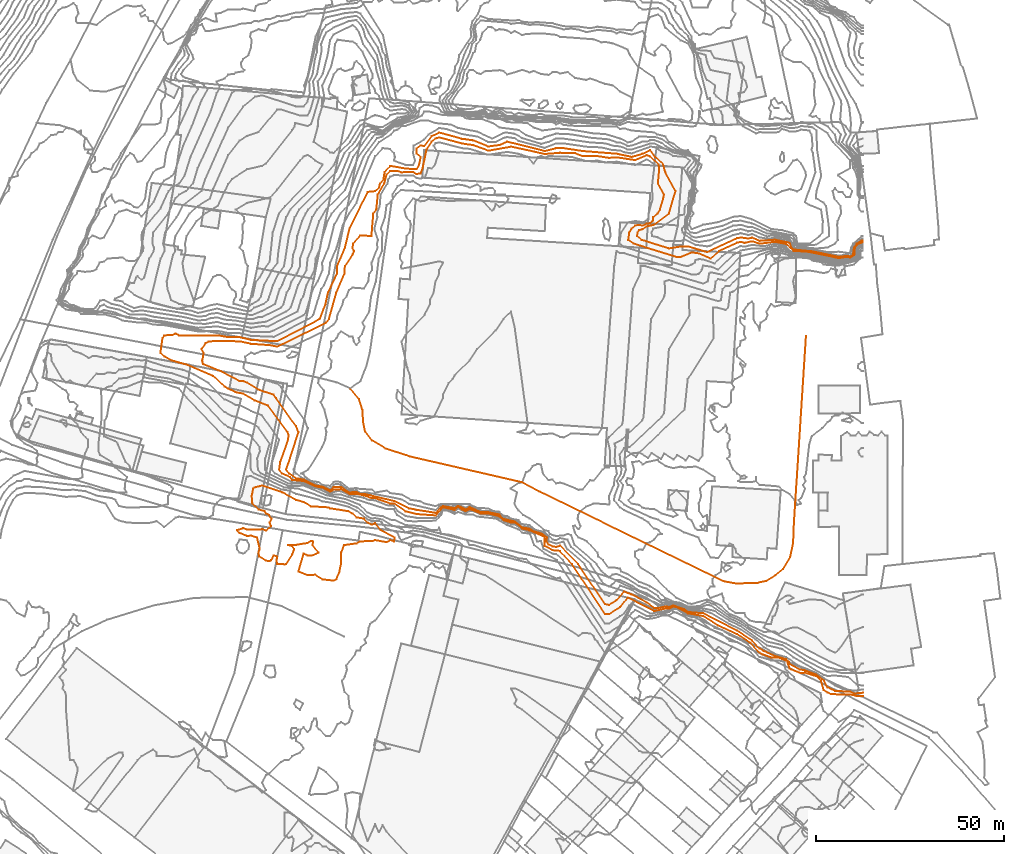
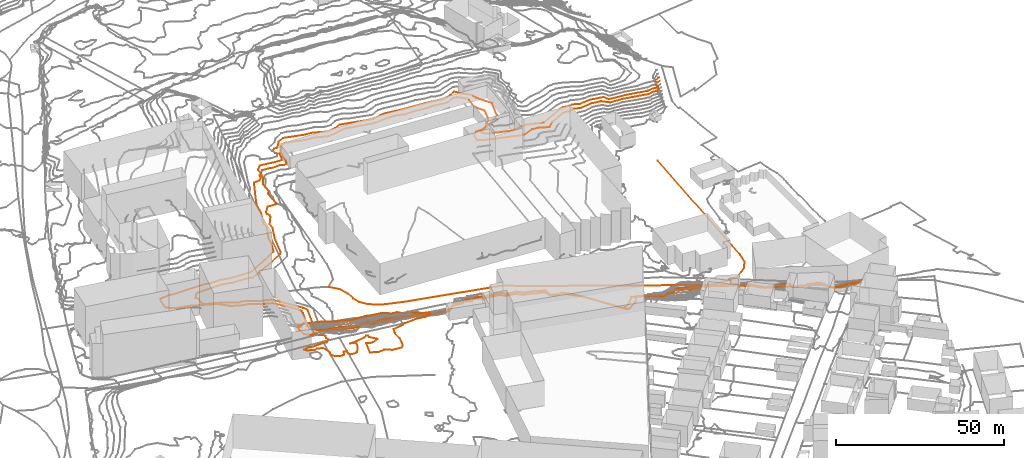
# Not in any storey, part 264 of 419: 4 proxies.
"""IFC2X3 model written with IfcOpenShell, lengths in metres."""

from ifc_helpers import new_model, entity, si_unit, frame, origin_with_axes, place, context, subcontext, project, element, save


model = new_model("IFC2X3")

# Units and contexts
model_context = context("Model", 3, precision=1e-05, world=origin_with_axes())
body_context = subcontext(model_context, "Body", "Model", "MODEL_VIEW")
ifc_project = project(units=[si_unit("AREAUNIT", "SQUARE_METRE"), si_unit("LENGTHUNIT", "METRE")], contexts=[model_context])

# Proxies
proxy_1_placement = place(None, frame((840.3920204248, 392.4976909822, 71.5), z_axis=(0.0, 0.0, 1.0), x_axis=(1.0, 0.0, 0.0)))
element("IfcBuildingElementProxy", 1, at=proxy_1_placement, Name="Route 196", ObjectType="NOTDEFINED", context=body_context, shape_type="GeometricCurveSet", body=[
    entity("IfcGeometricCurveSet", [entity("IfcPolyline", [entity("IfcCartesianPoint", [0.0, 0.0, 0.0]), entity("IfcCartesianPoint", [2.3999999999, -2.7999999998, 0.0]), entity("IfcCartesianPoint", [3.2999999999, -5.7999999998, 0.0]), entity("IfcCartesianPoint", [3.5, -8.8999999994, 0.0]), entity("IfcCartesianPoint", [4.0, -11.3999999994, 0.0]), entity("IfcCartesianPoint", [5.8999999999, -13.7999999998, 0.0]), entity("IfcCartesianPoint", [9.5, -16.0, 0.0]), entity("IfcCartesianPoint", [16.0, -18.0999999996, 0.0]), entity("IfcCartesianPoint", [45.5, -24.8999999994, -0.3]), entity("IfcCartesianPoint", [50.2999999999, -27.3999999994, -0.7]), entity("IfcCartesianPoint", [99.1, -51.1999999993, -3.0]), entity("IfcCartesianPoint", [102.3999999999, -51.7999999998, -3.5]), entity("IfcCartesianPoint", [105.3999999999, -51.6999999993, -3.7]), entity("IfcCartesianPoint", [108.1, -51.5999999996, -3.9]), entity("IfcCartesianPoint", [110.3999999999, -51.0999999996, -4.1]), entity("IfcCartesianPoint", [113.0, -49.5, -4.1]), entity("IfcCartesianPoint", [114.8999999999, -47.8999999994, -4.2]), entity("IfcCartesianPoint", [116.7999999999, -44.7999999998, -4.6]), entity("IfcCartesianPoint", [117.6, -40.8999999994, -4.6]), entity("IfcCartesianPoint", [117.7999999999, -35.7999999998, -4.6]), entity("IfcCartesianPoint", [121.0, 13.9000000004, -5.0])])]),
])
proxy_2_placement = place(None, frame((810.4253113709, 354.8976909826, 82.0), z_axis=(0.0, 0.0, 1.0), x_axis=(1.0, 0.0, 0.0)))
element("IfcBuildingElementProxy", 2, at=proxy_2_placement, Name="Contour 82.0 m", ObjectType="NOTDEFINED", context=body_context, shape_type="GeometricCurveSet", body=[
    entity("IfcGeometricCurveSet", [entity("IfcPolyline", [entity("IfcCartesianPoint", [26.3541971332, -13.0, 0.0]), entity("IfcCartesianPoint", [25.6667090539, -13.4230757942, 0.0]), entity("IfcCartesianPoint", [22.6667090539, -13.1199951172, 0.0]), entity("IfcCartesianPoint", [20.6667090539, -11.8571117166, 0.0]), entity("IfcCartesianPoint", [18.6667090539, -12.0000066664, 0.0]), entity("IfcCartesianPoint", [16.2666937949, -11.0, 0.0]), entity("IfcCartesianPoint", [17.6667090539, -6.2500476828, 0.0]), entity("IfcCartesianPoint", [18.6667090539, -6.7499523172, 0.0]), entity("IfcCartesianPoint", [19.6667090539, -6.8333121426, 0.0]), entity("IfcCartesianPoint", [21.6666090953, -6.0, 0.0]), entity("IfcCartesianPoint", [20.066724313, -4.0, 0.0]), entity("IfcCartesianPoint", [20.1666590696, -3.0, 0.0]), entity("IfcCartesianPoint", [19.6667090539, -2.9090719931, 0.0]), entity("IfcCartesianPoint", [18.6667090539, -3.4375089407, 0.0]), entity("IfcCartesianPoint", [15.6667090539, -3.9200134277, 0.0]), entity("IfcCartesianPoint", [13.5416852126, -4.0, 0.0]), entity("IfcCartesianPoint", [14.6667090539, -4.2500476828, 0.0]), entity("IfcCartesianPoint", [15.1667257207, -5.0, 0.0]), entity("IfcCartesianPoint", [14.6667090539, -6.5000499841, 0.0]), entity("IfcCartesianPoint", [13.0001271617, -9.0, 0.0]), entity("IfcCartesianPoint", [12.6667090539, -9.1000228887, 0.0]), entity("IfcCartesianPoint", [10.6666840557, -9.0, 0.0]), entity("IfcCartesianPoint", [10.4666785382, -8.0, 0.0]), entity("IfcCartesianPoint", [10.6666590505, -7.0, 0.0]), entity("IfcCartesianPoint", [9.6667090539, -6.7778060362, 0.0]), entity("IfcCartesianPoint", [9.0952649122, -8.0, 0.0]), entity("IfcCartesianPoint", [8.6667090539, -8.25, 0.0]), entity("IfcCartesianPoint", [7.6667090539, -8.142833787, 0.0]), entity("IfcCartesianPoint", [5.9167567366, -7.0, 0.0]), entity("IfcCartesianPoint", [5.6666947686, -6.0, 0.0]), entity("IfcCartesianPoint", [6.0416852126, -5.0, 0.0]), entity("IfcCartesianPoint", [5.3332909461, -2.0, 0.0]), entity("IfcCartesianPoint", [3.6667090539, -1.5000083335, 0.0]), entity("IfcCartesianPoint", [2.6667090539, -1.5714441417, 0.0]), entity("IfcCartesianPoint", [0.6667090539, -0.7999694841, 0.0]), entity("IfcCartesianPoint", [0.0, 0.0, 0.0]), entity("IfcCartesianPoint", [1.6667090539, 0.5000041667, 0.0]), entity("IfcCartesianPoint", [2.6667090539, 0.1153789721, 0.0]), entity("IfcCartesianPoint", [6.6667090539, 0.1999694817, 0.0]), entity("IfcCartesianPoint", [7.6667090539, -0.1428882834, 0.0]), entity("IfcCartesianPoint", [9.0416852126, 1.0, 0.0]), entity("IfcCartesianPoint", [8.6666965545, 2.0, 0.0]), entity("IfcCartesianPoint", [9.1666840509, 3.0, 0.0]), entity("IfcCartesianPoint", [8.5000211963, 4.0, 0.0]), entity("IfcCartesianPoint", [7.6667090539, 4.4166825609, 0.0]), entity("IfcCartesianPoint", [7.3167052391, 5.0, 0.0]), entity("IfcCartesianPoint", [5.6667090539, 5.4999977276, 0.0]), entity("IfcCartesianPoint", [4.0614448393, 7.0, 0.0]), entity("IfcCartesianPoint", [3.8974692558, 9.0, 0.0]), entity("IfcCartesianPoint", [4.2820891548, 11.0, 0.0]), entity("IfcCartesianPoint", [4.6667090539, 11.333333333, 0.0]), entity("IfcCartesianPoint", [6.6667090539, 11.8000050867, 0.0]), entity("IfcCartesianPoint", [12.0381313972, 10.0, 0.0]), entity("IfcCartesianPoint", [15.6667090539, 7.9642779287, 0.0]), entity("IfcCartesianPoint", [17.6667090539, 7.4255312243, 0.0]), entity("IfcCartesianPoint", [19.6667090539, 6.2758675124, 0.0]), entity("IfcCartesianPoint", [24.3333757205, 6.0, 0.0]), entity("IfcCartesianPoint", [24.6667090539, 5.75, 0.0]), entity("IfcCartesianPoint", [29.4314070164, 5.0, 0.0]), entity("IfcCartesianPoint", [30.6667090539, 4.3448212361, 0.0]), entity("IfcCartesianPoint", [31.6667090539, 3.3538504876, 0.0]), entity("IfcCartesianPoint", [33.6667090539, 3.0185178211, 0.0]), entity("IfcCartesianPoint", [34.5952921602, 2.0, 0.0]), entity("IfcCartesianPoint", [35.6667090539, 1.4027783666, 0.0]), entity("IfcCartesianPoint", [36.6667090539, 1.8139493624, 0.0]), entity("IfcCartesianPoint", [38.1333689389, 0.0, 0.0]), entity("IfcCartesianPoint", [41.7901643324, -2.0, 0.0]), entity("IfcCartesianPoint", [41.6667090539, -3.0677977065, 0.0]), entity("IfcCartesianPoint", [40.6667090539, -2.638302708, 0.0]), entity("IfcCartesianPoint", [39.6667090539, -3.2187492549, 0.0]), entity("IfcCartesianPoint", [36.6667090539, -2.6875044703, 0.0]), entity("IfcCartesianPoint", [35.6667090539, -2.958325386, 0.0]), entity("IfcCartesianPoint", [32.6667090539, -3.0000050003, 0.0]), entity("IfcCartesianPoint", [31.6667090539, -3.5238147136, 0.0]), entity("IfcCartesianPoint", [28.3810414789, -4.0, 0.0]), entity("IfcCartesianPoint", [27.6667090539, -6.0000500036, 0.0]), entity("IfcCartesianPoint", [27.5757810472, -9.0, 0.0]), entity("IfcCartesianPoint", [27.1667190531, -11.0, 0.0]), entity("IfcCartesianPoint", [26.3541971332, -13.0, 0.0])])]),
])
proxy_3_placement = place(None, frame((801.0011239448, 402.8976909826, 75.0), z_axis=(0.0, 0.0, 1.0), x_axis=(1.0, 0.0, 0.0)))
element("IfcBuildingElementProxy", 3, at=proxy_3_placement, Name="Contour 75.0 m", ObjectType="NOTDEFINED", context=body_context, shape_type="GeometricCurveSet", body=[
    entity("IfcGeometricCurveSet", [entity("IfcPolyline", [entity("IfcCartesianPoint", [175.59089648, 28.4306573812, 0.0]), entity("IfcCartesianPoint", [174.09089648, 27.8823534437, 0.0]), entity("IfcCartesianPoint", [173.3782261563, 27.0, 0.0]), entity("IfcCartesianPoint", [173.2190300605, 25.0, 0.0]), entity("IfcCartesianPoint", [172.09089648, 24.3349636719, 0.0]), entity("IfcCartesianPoint", [171.09089648, 24.4934721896, 0.0]), entity("IfcCartesianPoint", [169.09089648, 24.1485139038, 0.0]), entity("IfcCartesianPoint", [161.09089648, 25.8063588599, 0.0]), entity("IfcCartesianPoint", [157.09089648, 26.0812732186, 0.0]), entity("IfcCartesianPoint", [155.09089648, 27.8994695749, 0.0]), entity("IfcCartesianPoint", [152.09089648, 28.4812835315, 0.0]), entity("IfcCartesianPoint", [148.09089648, 27.9659843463, 0.0]), entity("IfcCartesianPoint", [146.09089648, 28.609521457, 0.0]), entity("IfcCartesianPoint", [144.09089648, 28.2111134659, 0.0]), entity("IfcCartesianPoint", [143.09089648, 28.4772721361, 0.0]), entity("IfcCartesianPoint", [142.09089648, 28.2345694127, 0.0]), entity("IfcCartesianPoint", [137.2703831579, 26.0, 0.0]), entity("IfcCartesianPoint", [135.09089648, 24.0263210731, 0.0]), entity("IfcCartesianPoint", [132.09089648, 25.3734936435, 0.0]), entity("IfcCartesianPoint", [130.09089648, 25.666666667, 0.0]), entity("IfcCartesianPoint", [127.09089648, 24.4687552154, 0.0]), entity("IfcCartesianPoint", [126.09089648, 24.4528272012, 0.0]), entity("IfcCartesianPoint", [114.59089148, 28.0, 0.0]), entity("IfcCartesianPoint", [113.2447366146, 29.0, 0.0]), entity("IfcCartesianPoint", [113.5039460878, 31.0, 0.0]), entity("IfcCartesianPoint", [114.1136284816, 32.0, 0.0]), entity("IfcCartesianPoint", [115.09089648, 32.8113231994, 0.0]), entity("IfcCartesianPoint", [116.09089648, 32.9670341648, 0.0]), entity("IfcCartesianPoint", [117.09089648, 32.7310932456, 0.0]), entity("IfcCartesianPoint", [118.09089648, 33.325926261, 0.0]), entity("IfcCartesianPoint", [119.09089648, 33.4409441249, 0.0]), entity("IfcCartesianPoint", [119.7483019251, 34.0, 0.0]), entity("IfcCartesianPoint", [119.8580209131, 35.0, 0.0]), entity("IfcCartesianPoint", [121.0302995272, 36.0, 0.0]), entity("IfcCartesianPoint", [121.6314359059, 37.0, 0.0]), entity("IfcCartesianPoint", [122.4856322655, 40.0, 0.0]), entity("IfcCartesianPoint", [122.7337575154, 41.0, 0.0]), entity("IfcCartesianPoint", [121.0908950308, 44.0, 0.0]), entity("IfcCartesianPoint", [121.475512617, 48.0, 0.0]), entity("IfcCartesianPoint", [121.2992268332, 49.0, 0.0]), entity("IfcCartesianPoint", [119.09089648, 51.0851081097, 0.0]), entity("IfcCartesianPoint", [118.09089648, 51.4489805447, 0.0]), entity("IfcCartesianPoint", [115.09089648, 50.1546405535, 0.0]), entity("IfcCartesianPoint", [110.09089648, 50.8686893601, 0.0]), entity("IfcCartesianPoint", [108.09089648, 50.7448988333, 0.0]), entity("IfcCartesianPoint", [105.09089648, 51.2023796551, 0.0]), entity("IfcCartesianPoint", [101.09089648, 51.202896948, 0.0]), entity("IfcCartesianPoint", [99.09089648, 51.9767478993, 0.0]), entity("IfcCartesianPoint", [95.09089648, 52.102566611, 0.0]), entity("IfcCartesianPoint", [91.09089648, 51.7758609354, 0.0]), entity("IfcCartesianPoint", [82.09089648, 53.721517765, 0.0]), entity("IfcCartesianPoint", [76.09089648, 52.6455715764, 0.0]), entity("IfcCartesianPoint", [72.09089648, 54.1315765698, 0.0]), entity("IfcCartesianPoint", [69.09089648, 54.5500009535, 0.0]), entity("IfcCartesianPoint", [63.09089648, 56.1818181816, 0.0]), entity("IfcCartesianPoint", [62.09089648, 55.9204546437, 0.0]), entity("IfcCartesianPoint", [61.09089648, 55.0819721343, 0.0]), entity("IfcCartesianPoint", [59.7045324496, 53.0, 0.0]), entity("IfcCartesianPoint", [58.6976394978, 48.0, 0.0]), entity("IfcCartesianPoint", [58.09089648, 46.6521743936, 0.0]), entity("IfcCartesianPoint", [57.09089648, 46.4545446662, 0.0]), entity("IfcCartesianPoint", [56.09089648, 46.9906522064, 0.0]), entity("IfcCartesianPoint", [53.09089648, 46.9189217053, 0.0]), entity("IfcCartesianPoint", [52.09089648, 47.2758611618, 0.0]), entity("IfcCartesianPoint", [50.09089648, 47.3142854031, 0.0]), entity("IfcCartesianPoint", [49.09089648, 46.3157889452, 0.0]), entity("IfcCartesianPoint", [48.49089648, 44.0, 0.0]), entity("IfcCartesianPoint", [46.767588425, 41.0, 0.0]), entity("IfcCartesianPoint", [46.3739152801, 37.0, 0.0]), entity("IfcCartesianPoint", [45.5766113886, 36.0, 0.0]), entity("IfcCartesianPoint", [45.09089648, 29.9999857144, 0.0]), entity("IfcCartesianPoint", [42.09089648, 30.1817992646, 0.0]), entity("IfcCartesianPoint", [40.257541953, 28.0, 0.0]), entity("IfcCartesianPoint", [40.0531668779, 27.0, 0.0]), entity("IfcCartesianPoint", [40.4308928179, 26.0, 0.0]), entity("IfcCartesianPoint", [40.09089648, 25.0555673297, 0.0]), entity("IfcCartesianPoint", [38.0474254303, 22.0, 0.0]), entity("IfcCartesianPoint", [37.8979128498, 20.0, 0.0]), entity("IfcCartesianPoint", [35.7575631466, 15.0, 0.0]), entity("IfcCartesianPoint", [33.786549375, 8.0, 0.0]), entity("IfcCartesianPoint", [33.0284069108, 7.0, 0.0]), entity("IfcCartesianPoint", [20.09089648, 0.639537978, 0.0]), entity("IfcCartesianPoint", [18.09089648, 1.058143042, 0.0]), entity("IfcCartesianPoint", [13.09089648, 1.4062497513, 0.0]), entity("IfcCartesianPoint", [10.09089648, 2.0760867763, 0.0]), entity("IfcCartesianPoint", [3.09089648, 2.1111064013, 0.0]), entity("IfcCartesianPoint", [1.8908659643, 2.0, 0.0]), entity("IfcCartesianPoint", [1.09089648, 1.5999847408, 0.0]), entity("IfcCartesianPoint", [0.0, 0.0, 0.0]), entity("IfcCartesianPoint", [0.5909089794, -1.0, 0.0]), entity("IfcCartesianPoint", [0.2159203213, -3.0, 0.0]), entity("IfcCartesianPoint", [0.3908888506, -4.0, 0.0]), entity("IfcCartesianPoint", [5.09089648, -5.8409106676, 0.0]), entity("IfcCartesianPoint", [10.09089648, -8.4838677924, 0.0]), entity("IfcCartesianPoint", [11.09089648, -8.4999968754, 0.0]), entity("IfcCartesianPoint", [12.09089648, -8.9130564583, 0.0]), entity("IfcCartesianPoint", [15.09089648, -10.7666700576, 0.0]), entity("IfcCartesianPoint", [19.09089648, -12.0908964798, 0.0]), entity("IfcCartesianPoint", [19.7805570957, -13.0, 0.0]), entity("IfcCartesianPoint", [25.09089648, -20.4545359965, 0.0]), entity("IfcCartesianPoint", [25.7020099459, -22.0, 0.0]), entity("IfcCartesianPoint", [22.4562827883, -32.0, 0.0]), entity("IfcCartesianPoint", [23.2946009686, -33.0, 0.0]), entity("IfcCartesianPoint", [25.09089648, -34.2872349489, 0.0]), entity("IfcCartesianPoint", [27.09089648, -34.6441956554, 0.0]), entity("IfcCartesianPoint", [30.09089648, -36.1378451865, 0.0]), entity("IfcCartesianPoint", [32.09089648, -36.5370370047, 0.0]), entity("IfcCartesianPoint", [34.09089648, -37.4346298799, 0.0]), entity("IfcCartesianPoint", [35.09089648, -36.608393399, 0.0]), entity("IfcCartesianPoint", [37.09089648, -36.6067430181, 0.0]), entity("IfcCartesianPoint", [39.09089648, -38.0409565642, 0.0]), entity("IfcCartesianPoint", [41.09089648, -37.8622233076, 0.0]), entity("IfcCartesianPoint", [42.09089648, -38.4490447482, 0.0]), entity("IfcCartesianPoint", [43.09089648, -38.3992240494, 0.0]), entity("IfcCartesianPoint", [51.09089648, -40.3076934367, 0.0]), entity("IfcCartesianPoint", [55.09089648, -42.2359541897, 0.0]), entity("IfcCartesianPoint", [57.09089648, -42.6516878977, 0.0]), entity("IfcCartesianPoint", [62.09089648, -43.4374996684, 0.0]), entity("IfcCartesianPoint", [63.432358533, -42.0, 0.0]), entity("IfcCartesianPoint", [64.09089648, -41.6887603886, 0.0]), entity("IfcCartesianPoint", [67.09089648, -42.2072066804, 0.0]), entity("IfcCartesianPoint", [68.09089648, -41.5894738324, 0.0]), entity("IfcCartesianPoint", [70.09089648, -42.5281396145, 0.0]), entity("IfcCartesianPoint", [71.09089648, -41.9484137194, 0.0]), entity("IfcCartesianPoint", [74.09089648, -43.2352947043, 0.0]), entity("IfcCartesianPoint", [76.09089648, -43.2785237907, 0.0]), entity("IfcCartesianPoint", [79.09089648, -43.8857145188, 0.0]), entity("IfcCartesianPoint", [80.09089648, -45.0898211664, 0.0]), entity("IfcCartesianPoint", [83.09089648, -45.7130919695, 0.0]), entity("IfcCartesianPoint", [85.09089648, -47.3266475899, 0.0]), entity("IfcCartesianPoint", [87.09089648, -47.6771655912, 0.0]), entity("IfcCartesianPoint", [88.09089648, -48.339832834, 0.0]), entity("IfcCartesianPoint", [90.3226832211, -49.0, 0.0]), entity("IfcCartesianPoint", [91.6290322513, -50.0, 0.0]), entity("IfcCartesianPoint", [91.5611666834, -51.0, 0.0]), entity("IfcCartesianPoint", [92.09089648, -51.8448278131, 0.0]), entity("IfcCartesianPoint", [93.09089648, -52.3689298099, 0.0]), entity("IfcCartesianPoint", [94.09089648, -52.4778780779, 0.0]), entity("IfcCartesianPoint", [95.09089648, -52.1648361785, 0.0]), entity("IfcCartesianPoint", [99.9433598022, -57.0, 0.0]), entity("IfcCartesianPoint", [107.09089648, -67.6666731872, 0.0]), entity("IfcCartesianPoint", [108.09089648, -67.8780424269, 0.0]), entity("IfcCartesianPoint", [110.09089648, -66.6341458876, 0.0]), entity("IfcCartesianPoint", [112.09089648, -64.3541660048, 0.0]), entity("IfcCartesianPoint", [114.09089648, -65.0731677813, 0.0]), entity("IfcCartesianPoint", [118.09089648, -67.1829287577, 0.0]), entity("IfcCartesianPoint", [120.09089648, -68.6764689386, 0.0]), entity("IfcCartesianPoint", [121.09089648, -68.733728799, 0.0]), entity("IfcCartesianPoint", [123.09089648, -68.258426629, 0.0]), entity("IfcCartesianPoint", [124.09089648, -68.4203536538, 0.0]), entity("IfcCartesianPoint", [125.09089648, -67.9849630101, 0.0]), entity("IfcCartesianPoint", [128.0251078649, -69.0, 0.0]), entity("IfcCartesianPoint", [129.09089648, -69.7665507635, 0.0]), entity("IfcCartesianPoint", [133.09089648, -70.0751867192, 0.0]), entity("IfcCartesianPoint", [142.09089648, -74.7016120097, 0.0]), entity("IfcCartesianPoint", [146.09089648, -77.3173091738, 0.0]), entity("IfcCartesianPoint", [148.09089648, -79.416666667, 0.0]), entity("IfcCartesianPoint", [149.09089648, -80.0736841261, 0.0]), entity("IfcCartesianPoint", [152.09089648, -81.3879772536, 0.0]), entity("IfcCartesianPoint", [155.09089648, -82.2929690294, 0.0]), entity("IfcCartesianPoint", [155.8917823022, -83.0, 0.0]), entity("IfcCartesianPoint", [156.09089648, -83.5421687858, 0.0]), entity("IfcCartesianPoint", [158.6946708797, -85.0, 0.0]), entity("IfcCartesianPoint", [160.09089648, -85.2201253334, 0.0]), entity("IfcCartesianPoint", [163.09089648, -86.3659579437, 0.0]), entity("IfcCartesianPoint", [165.1833337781, -88.0, 0.0]), entity("IfcCartesianPoint", [166.09089648, -89.7333374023, 0.0]), entity("IfcCartesianPoint", [168.09089648, -90.666666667, 0.0]), entity("IfcCartesianPoint", [172.09089648, -90.9141106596, 0.0]), entity("IfcCartesianPoint", [173.09089648, -91.3922652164, 0.0]), entity("IfcCartesianPoint", [175.59089648, -91.1637946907, 0.0])])]),
])
proxy_4_placement = place(None, frame((790.0920347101, 401.8976909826, 76.0), z_axis=(0.0, 0.0, 1.0), x_axis=(1.0, 0.0, 0.0)))
element("IfcBuildingElementProxy", 4, at=proxy_4_placement, Name="Contour 76.0 m", ObjectType="NOTDEFINED", context=body_context, shape_type="GeometricCurveSet", body=[
    entity("IfcGeometricCurveSet", [entity("IfcPolyline", [entity("IfcCartesianPoint", [186.4999857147, 29.7956211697, 0.0]), entity("IfcCartesianPoint", [185.9999857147, 29.7956211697, 0.0]), entity("IfcCartesianPoint", [184.7632507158, 29.0, 0.0]), entity("IfcCartesianPoint", [184.0610709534, 28.0, 0.0]), entity("IfcCartesianPoint", [183.7610474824, 26.0, 0.0]), entity("IfcCartesianPoint", [182.9999857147, 25.5794622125, 0.0]), entity("IfcCartesianPoint", [181.9999857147, 25.7545686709, 0.0]), entity("IfcCartesianPoint", [179.9999857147, 25.4785470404, 0.0]), entity("IfcCartesianPoint", [172.9999857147, 26.9388387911, 0.0]), entity("IfcCartesianPoint", [167.9999857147, 27.4346298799, 0.0]), entity("IfcCartesianPoint", [167.4095801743, 28.0, 0.0]), entity("IfcCartesianPoint", [166.9999857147, 29.2067053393, 0.0]), entity("IfcCartesianPoint", [162.9999857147, 30.0160421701, 0.0]), entity("IfcCartesianPoint", [158.9999857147, 29.7421858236, 0.0]), entity("IfcCartesianPoint", [156.9999857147, 30.5619037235, 0.0]), entity("IfcCartesianPoint", [155.9999857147, 30.3238074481, 0.0]), entity("IfcCartesianPoint", [153.9999857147, 30.6206887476, 0.0]), entity("IfcCartesianPoint", [152.9999857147, 30.4578312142, 0.0]), entity("IfcCartesianPoint", [144.9999857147, 26.714288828, 0.0]), entity("IfcCartesianPoint", [139.9999857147, 28.2537293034, 0.0]), entity("IfcCartesianPoint", [137.9999857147, 28.2380926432, 0.0]), entity("IfcCartesianPoint", [134.9999857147, 27.7192954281, 0.0]), entity("IfcCartesianPoint", [127.6315710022, 30.0, 0.0]), entity("IfcCartesianPoint", [126.5249814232, 31.0, 0.0]), entity("IfcCartesianPoint", [126.5869361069, 32.0, 0.0]), entity("IfcCartesianPoint", [126.9999857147, 32.6129008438, 0.0]), entity("IfcCartesianPoint", [127.9999857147, 32.8333365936, 0.0]), entity("IfcCartesianPoint", [128.9999857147, 33.5725201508, 0.0]), entity("IfcCartesianPoint", [131.0322501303, 34.0, 0.0]), entity("IfcCartesianPoint", [134.9117530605, 37.0, 0.0]), entity("IfcCartesianPoint", [136.6785688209, 43.0, 0.0]), entity("IfcCartesianPoint", [133.9999857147, 47.8125029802, 0.0]), entity("IfcCartesianPoint", [133.4444254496, 50.0, 0.0]), entity("IfcCartesianPoint", [131.2432300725, 52.0, 0.0]), entity("IfcCartesianPoint", [129.9999857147, 53.8260835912, 0.0]), entity("IfcCartesianPoint", [127.9999857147, 52.8380962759, 0.0]), entity("IfcCartesianPoint", [124.9999857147, 52.0093477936, 0.0]), entity("IfcCartesianPoint", [120.9999857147, 52.8446576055, 0.0]), entity("IfcCartesianPoint", [111.9999857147, 53.5555534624, 0.0]), entity("IfcCartesianPoint", [106.9999857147, 54.3164553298, 0.0]), entity("IfcCartesianPoint", [104.9999857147, 54.320513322, 0.0]), entity("IfcCartesianPoint", [101.9999857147, 53.556391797, 0.0]), entity("IfcCartesianPoint", [91.9999857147, 56.0481937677, 0.0]), entity("IfcCartesianPoint", [89.9999857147, 55.1720468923, 0.0]), entity("IfcCartesianPoint", [86.9999857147, 54.7659567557, 0.0]), entity("IfcCartesianPoint", [82.9999857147, 56.4146298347, 0.0]), entity("IfcCartesianPoint", [79.9999857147, 56.7999961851, 0.0]), entity("IfcCartesianPoint", [73.9999857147, 58.4743585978, 0.0]), entity("IfcCartesianPoint", [71.9999857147, 57.4999988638, 0.0]), entity("IfcCartesianPoint", [69.9999857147, 54.8902483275, 0.0]), entity("IfcCartesianPoint", [68.9999857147, 55.0574745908, 0.0]), entity("IfcCartesianPoint", [67.9999857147, 54.2833310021, 0.0]), entity("IfcCartesianPoint", [67.9999857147, 52.8510648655, 0.0]), entity("IfcCartesianPoint", [69.0673987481, 52.0, 0.0]), entity("IfcCartesianPoint", [68.6741417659, 50.0, 0.0]), entity("IfcCartesianPoint", [67.9999857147, 48.7428555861, 0.0]), entity("IfcCartesianPoint", [64.9999857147, 48.9099113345, 0.0]), entity("IfcCartesianPoint", [60.9999857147, 49.6190463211, 0.0]), entity("IfcCartesianPoint", [59.472511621, 48.0, 0.0]), entity("IfcCartesianPoint", [59.1863229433, 46.0, 0.0]), entity("IfcCartesianPoint", [58.2856968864, 45.0, 0.0]), entity("IfcCartesianPoint", [57.9999857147, 43.8705872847, 0.0]), entity("IfcCartesianPoint", [56.9999857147, 42.9090719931, 0.0]), entity("IfcCartesianPoint", [54.9999857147, 42.7272853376, 0.0]), entity("IfcCartesianPoint", [50.1860363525, 33.0, 0.0]), entity("IfcCartesianPoint", [48.9565146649, 28.0, 0.0]), entity("IfcCartesianPoint", [46.8823421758, 23.0, 0.0]), entity("IfcCartesianPoint", [46.8478121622, 21.0, 0.0]), entity("IfcCartesianPoint", [44.4680722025, 16.0, 0.0]), entity("IfcCartesianPoint", [43.7916537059, 13.0, 0.0]), entity("IfcCartesianPoint", [42.2894630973, 9.0, 0.0]), entity("IfcCartesianPoint", [30.9999857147, 3.0999961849, 0.0]), entity("IfcCartesianPoint", [23.9999857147, 3.4526333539, 0.0]), entity("IfcCartesianPoint", [20.9999857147, 4.1612919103, 0.0]), entity("IfcCartesianPoint", [17.9999857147, 4.1868119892, 0.0]), entity("IfcCartesianPoint", [14.9999857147, 4.666666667, 0.0]), entity("IfcCartesianPoint", [4.9999857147, 4.6538529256, 0.0]), entity("IfcCartesianPoint", [3.9999857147, 5.0999847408, 0.0]), entity("IfcCartesianPoint", [2.9999857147, 4.7058744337, 0.0]), entity("IfcCartesianPoint", [1.9999857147, 4.7777730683, 0.0]), entity("IfcCartesianPoint", [0.9999857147, 4.5624910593, 0.0]), entity("IfcCartesianPoint", [0.5714298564, 4.0, 0.0]), entity("IfcCartesianPoint", [0.0, 0.0, 0.0]), entity("IfcCartesianPoint", [1.0833349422, -1.0, 0.0]), entity("IfcCartesianPoint", [2.909057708, -2.0, 0.0]), entity("IfcCartesianPoint", [6.9999857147, -3.1090873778, 0.0]), entity("IfcCartesianPoint", [13.9999857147, -6.1111134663, 0.0]), entity("IfcCartesianPoint", [16.9999857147, -8.9310444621, 0.0]), entity("IfcCartesianPoint", [17.9999857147, -9.4999966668, 0.0]), entity("IfcCartesianPoint", [19.9999857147, -10.448264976, 0.0]), entity("IfcCartesianPoint", [21.9999857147, -10.8333280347, 0.0]), entity("IfcCartesianPoint", [24.9999857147, -12.5999949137, 0.0]), entity("IfcCartesianPoint", [28.5714298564, -14.0, 0.0]), entity("IfcCartesianPoint", [33.7407243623, -21.0, 0.0]), entity("IfcCartesianPoint", [33.9999857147, -21.7778060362, 0.0]), entity("IfcCartesianPoint", [33.8912850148, -23.0, 0.0]), entity("IfcCartesianPoint", [31.7825972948, -29.0, 0.0]), entity("IfcCartesianPoint", [31.490556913, -31.0, 0.0]), entity("IfcCartesianPoint", [32.3207377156, -32.0, 0.0]), entity("IfcCartesianPoint", [34.4528129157, -33.0, 0.0]), entity("IfcCartesianPoint", [34.9999857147, -33.6904813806, 0.0]), entity("IfcCartesianPoint", [37.9999857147, -34.0172424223, 0.0]), entity("IfcCartesianPoint", [40.9999857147, -35.3884714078, 0.0]), entity("IfcCartesianPoint", [42.9999857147, -35.7685185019, 0.0]), entity("IfcCartesianPoint", [44.9999857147, -36.7879865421, 0.0]), entity("IfcCartesianPoint", [45.9999857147, -36.3055567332, 0.0]), entity("IfcCartesianPoint", [47.9999857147, -36.1714303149, 0.0]), entity("IfcCartesianPoint", [49.9999857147, -37.3822534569, 0.0]), entity("IfcCartesianPoint", [51.9999857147, -37.4233131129, 0.0]), entity("IfcCartesianPoint", [53.9999857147, -37.7868206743, 0.0]), entity("IfcCartesianPoint", [55.9999857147, -38.564767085, 0.0]), entity("IfcCartesianPoint", [56.9999857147, -38.5665035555, 0.0]), entity("IfcCartesianPoint", [60.9999857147, -39.9999991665, 0.0]), entity("IfcCartesianPoint", [61.9999857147, -39.9487169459, 0.0]), entity("IfcCartesianPoint", [64.9999857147, -42.0379730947, 0.0]), entity("IfcCartesianPoint", [67.9999857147, -42.7666680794, 0.0]), entity("IfcCartesianPoint", [72.9999857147, -43.1310357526, 0.0]), entity("IfcCartesianPoint", [74.9999857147, -40.976944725, 0.0]), entity("IfcCartesianPoint", [77.9999857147, -41.6576568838, 0.0]), entity("IfcCartesianPoint", [78.9999857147, -40.8526320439, 0.0]), entity("IfcCartesianPoint", [79.9999857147, -41.6165420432, 0.0]), entity("IfcCartesianPoint", [80.9999857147, -41.9610405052, 0.0]), entity("IfcCartesianPoint", [81.9999857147, -41.4554979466, 0.0]), entity("IfcCartesianPoint", [84.9999857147, -42.5620923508, 0.0]), entity("IfcCartesianPoint", [86.9999857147, -42.614093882, 0.0]), entity("IfcCartesianPoint", [89.9999857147, -43.3695645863, 0.0]), entity("IfcCartesianPoint", [90.9999857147, -44.3892220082, 0.0]), entity("IfcCartesianPoint", [92.9999857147, -44.999999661, 0.0]), entity("IfcCartesianPoint", [93.9999857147, -44.9916437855, 0.0]), entity("IfcCartesianPoint", [95.9999857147, -46.6131807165, 0.0]), entity("IfcCartesianPoint", [97.9999857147, -47.080357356, 0.0]), entity("IfcCartesianPoint", [101.9999857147, -48.8888902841, 0.0]), entity("IfcCartesianPoint", [101.9999857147, -51.1978017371, 0.0]), entity("IfcCartesianPoint", [103.9999857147, -52.336536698, 0.0]), entity("IfcCartesianPoint", [105.9999857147, -52.5454561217, 0.0]), entity("IfcCartesianPoint", [109.213095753, -56.0, 0.0]), entity("IfcCartesianPoint", [117.9999857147, -69.2631557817, 0.0]), entity("IfcCartesianPoint", [118.9999857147, -69.3170695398, 0.0]), entity("IfcCartesianPoint", [121.9999857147, -67.439021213, 0.0]), entity("IfcCartesianPoint", [123.9999857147, -64.8860796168, 0.0]), entity("IfcCartesianPoint", [130.9999857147, -68.4936695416, 0.0]), entity("IfcCartesianPoint", [133.9999857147, -67.8202247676, 0.0]), entity("IfcCartesianPoint", [134.9999857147, -67.8628326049, 0.0]), entity("IfcCartesianPoint", [135.9999857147, -67.2965301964, 0.0]), entity("IfcCartesianPoint", [136.9999857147, -67.4916067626, 0.0]), entity("IfcCartesianPoint", [139.9999857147, -69.114983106, 0.0]), entity("IfcCartesianPoint", [143.9999857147, -69.8270653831, 0.0]), entity("IfcCartesianPoint", [147.9999857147, -72.3362815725, 0.0]), entity("IfcCartesianPoint", [152.9999857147, -74.6562477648, 0.0]), entity("IfcCartesianPoint", [156.64632593, -77.0, 0.0]), entity("IfcCartesianPoint", [158.9999857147, -79.5666680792, 0.0]), entity("IfcCartesianPoint", [159.7646871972, -80.0, 0.0]), entity("IfcCartesianPoint", [161.9999857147, -80.7968731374, 0.0]), entity("IfcCartesianPoint", [163.9999857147, -80.8731890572, 0.0]), entity("IfcCartesianPoint", [165.9999857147, -81.6835944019, 0.0]), entity("IfcCartesianPoint", [166.3583925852, -82.0, 0.0]), entity("IfcCartesianPoint", [166.9999857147, -83.7848126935, 0.0]), entity("IfcCartesianPoint", [167.4249795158, -84.0, 0.0]), entity("IfcCartesianPoint", [169.9999857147, -84.9999991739, 0.0]), entity("IfcCartesianPoint", [170.9999857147, -84.8490575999, 0.0]), entity("IfcCartesianPoint", [173.9999857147, -85.7914901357, 0.0]), entity("IfcCartesianPoint", [175.2936381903, -87.0, 0.0]), entity("IfcCartesianPoint", [175.9999857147, -89.4693893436, 0.0]), entity("IfcCartesianPoint", [176.9999857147, -90.1126787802, 0.0]), entity("IfcCartesianPoint", [177.9999857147, -90.5694485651, 0.0]), entity("IfcCartesianPoint", [182.9999857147, -90.6323531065, 0.0]), entity("IfcCartesianPoint", [184.9999857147, -91.102566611, 0.0]), entity("IfcCartesianPoint", [186.4999857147, -91.1071389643, 0.0])])]),
])

save(model, "model.ifc")
